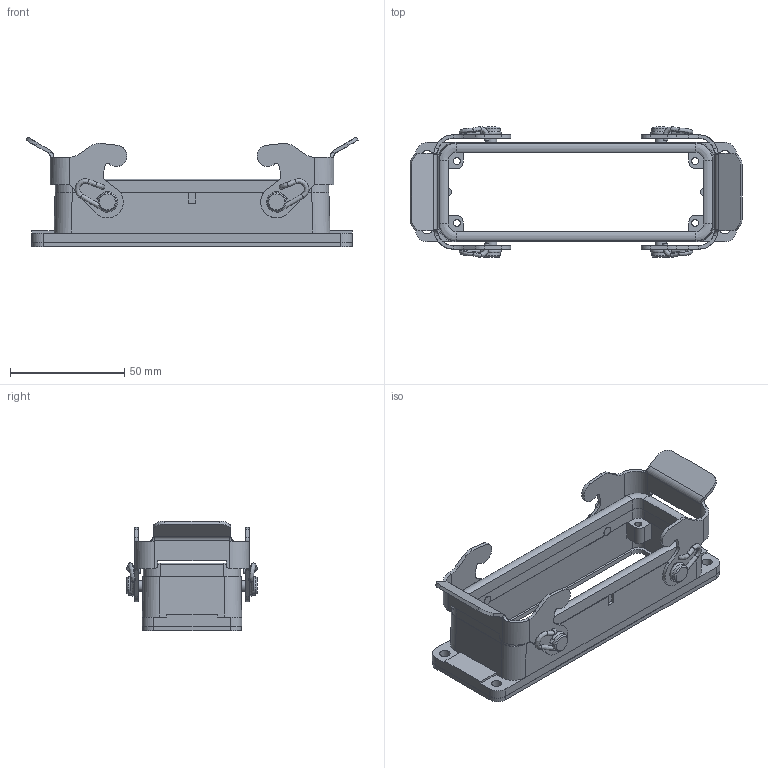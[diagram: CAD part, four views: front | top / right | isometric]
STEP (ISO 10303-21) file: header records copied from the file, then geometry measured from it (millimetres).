
FILE_DESCRIPTION(/* description */ (''),/* implementation_level */ '2;1');
FILE_NAME(/* name */ '100179235ugm000_d.stp',/* time_stamp */ '2022-03-11T14:31:27+01:00',/* author */ (''),/* organization */ (''),/* preprocessor_version */ 'ST-DEVELOPER v16.7',/* originating_system */ 'SIEMENS PLM Software NX 1911',/* authorisation */ '');
FILE_SCHEMA (('AUTOMOTIVE_DESIGN { 1 0 10303 214 3 1 1 1 }'));
Length unit declared in the file: millimetre
Products named in the file (1): 100179235ugm000_d
Bounding box: 145.02 x 57 x 47.85 mm (x, y, z)
Volume: 47158.1 mm3; surface area: 34785.5 mm2
Topology: 3 solids, 3 shells, 490 faces, 1324 edges, 850 vertices
Faces by surface type: plane 275, cylinder 130, bspline 60, cone 10, extrusion 9, torus 4, sphere 2
Full cylindrical faces by diameter (mm): 0.42 x1, 0.589 x1, 3 x4, 4 x4, 4.48 x4, 4.5 x4, 4.8 x4, 8 x4
Entity records: 21026 total; most frequent: CARTESIAN_POINT 6475, ORIENTED_EDGE 2502, DIRECTION 2104, EDGE_CURVE 1251, VERTEX_POINT 827, VECTOR 712, LINE 703, AXIS2_PLACEMENT_3D 696
